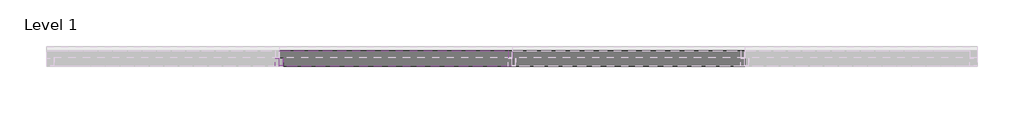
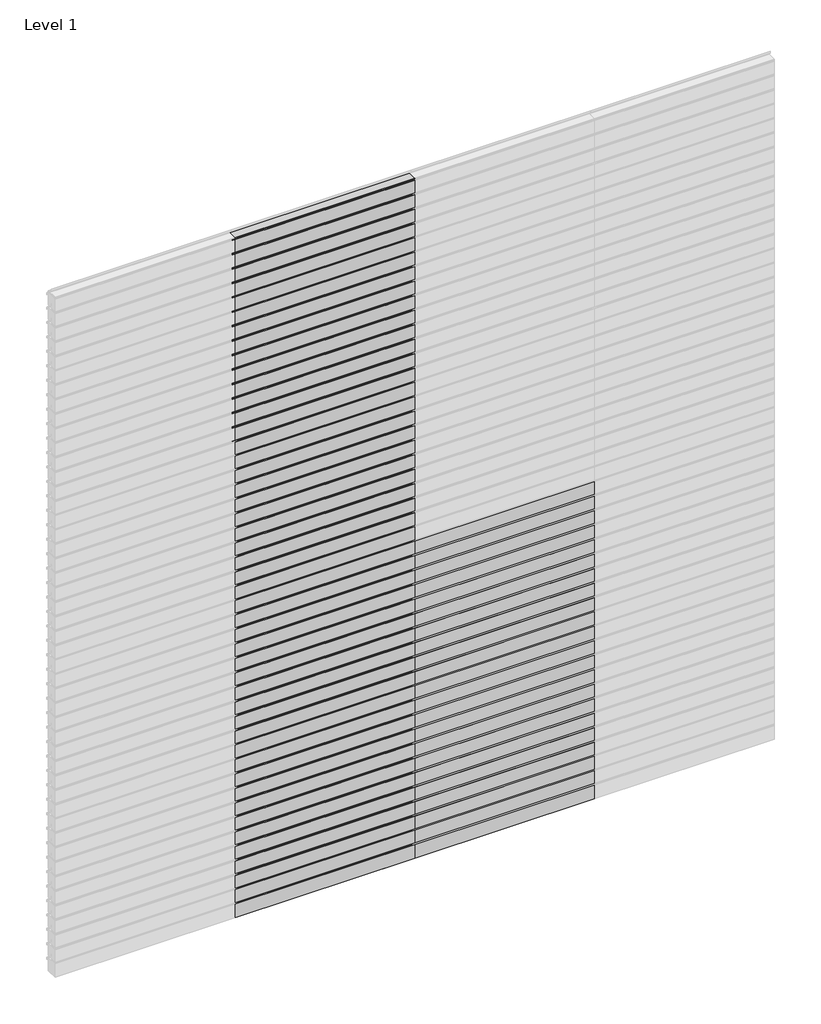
# One storey, part 3 of 6: 117 plates, 14 members.
"""IFC4 building model written with IfcOpenShell, lengths in millimetres."""

from ifc_helpers import new_model, si_unit, origin, place, context, project, spatial, transform, mapped, element, save
from components import rectangular_mullion_172e3795, empty_system_panel_empty_e0da4f88, empty_system_panel_empty_a47fb649, empty_system_panel_empty_1618a703, empty_system_panel_empty_03f415d5

model = new_model("IFC4")

# Units and contexts
model_context = context("Model", 3, world=origin())
ifc_project = project(units=[si_unit("LENGTHUNIT", "METRE", prefix="MILLI")], contexts=[model_context])

# Site, building, storey
site = spatial("IfcSite", under=ifc_project)
building = spatial("IfcBuilding", under=site)
storey = spatial("IfcBuildingStorey", under=building, Name="Level 1", Elevation=0.0)

# Members
placement = place(None, origin())
rectangular_mullion_shape = rectangular_mullion_172e3795(model_context)
element("IfcMember", 1, ObjectType="Rectangular Mullion : RSen_21_CWM_support profile 50x50_gen_duco projects", at=placement, inside=storey, context=model_context, shape_type="MappedRepresentation", body=[
    mapped(rectangular_mullion_shape, transform((1500.0, 3000.0, 4207.5), x_axis=(-1.0, 0.0, 0.0), y_axis=(0.0, 1.0, 0.0), z_axis=(0.0, 0.0, -1.0))),
])
element("IfcMember", 2, ObjectType="Rectangular Mullion : RSen_21_CWM_support profile 50x50_gen_duco projects", at=placement, inside=storey, context=model_context, shape_type="MappedRepresentation", body=[
    mapped(rectangular_mullion_shape, transform((1500.0, 3000.0, 4335.0), x_axis=(-1.0, 0.0, 0.0), y_axis=(0.0, 1.0, 0.0), z_axis=(0.0, 0.0, -1.0))),
])
element("IfcMember", 3, ObjectType="Rectangular Mullion : RSen_21_CWM_support profile 50x50_gen_duco projects", at=placement, inside=storey, context=model_context, shape_type="MappedRepresentation", body=[
    mapped(rectangular_mullion_shape, transform((1500.0, 3000.0, 4462.5), x_axis=(-1.0, 0.0, 0.0), y_axis=(0.0, 1.0, 0.0), z_axis=(0.0, 0.0, -1.0))),
])
element("IfcMember", 4, ObjectType="Rectangular Mullion : RSen_21_CWM_support profile 50x50_gen_duco projects", at=placement, inside=storey, context=model_context, shape_type="MappedRepresentation", body=[
    mapped(rectangular_mullion_shape, transform((1500.0, 3000.0, 4590.0), x_axis=(-1.0, 0.0, 0.0), y_axis=(0.0, 1.0, 0.0), z_axis=(0.0, 0.0, -1.0))),
])
element("IfcMember", 5, ObjectType="Rectangular Mullion : RSen_21_CWM_support profile 50x50_gen_duco projects", at=placement, inside=storey, context=model_context, shape_type="MappedRepresentation", body=[
    mapped(rectangular_mullion_shape, transform((1500.0, 3000.0, 4717.5), x_axis=(-1.0, 0.0, 0.0), y_axis=(0.0, 1.0, 0.0), z_axis=(0.0, 0.0, -1.0))),
])
element("IfcMember", 6, ObjectType="Rectangular Mullion : RSen_21_CWM_support profile 50x50_gen_duco projects", at=placement, inside=storey, context=model_context, shape_type="MappedRepresentation", body=[
    mapped(rectangular_mullion_shape, transform((1500.0, 3000.0, 4845.0), x_axis=(-1.0, 0.0, 0.0), y_axis=(0.0, 1.0, 0.0), z_axis=(0.0, 0.0, -1.0))),
])
element("IfcMember", 7, ObjectType="Rectangular Mullion : RSen_21_CWM_support profile 50x50_gen_duco projects", at=placement, inside=storey, context=model_context, shape_type="MappedRepresentation", body=[
    mapped(rectangular_mullion_shape, transform((1500.0, 3000.0, 4972.5), x_axis=(-1.0, 0.0, 0.0), y_axis=(0.0, 1.0, 0.0), z_axis=(0.0, 0.0, -1.0))),
])
element("IfcMember", 8, ObjectType="Rectangular Mullion : RSen_21_CWM_support profile 50x50_gen_duco projects", at=placement, inside=storey, context=model_context, shape_type="MappedRepresentation", body=[
    mapped(rectangular_mullion_shape, transform((1500.0, 3000.0, 5100.0), x_axis=(-1.0, 0.0, 0.0), y_axis=(0.0, 1.0, 0.0), z_axis=(0.0, 0.0, -1.0))),
])
element("IfcMember", 9, ObjectType="Rectangular Mullion : RSen_21_CWM_support profile 50x50_gen_duco projects", at=placement, inside=storey, context=model_context, shape_type="MappedRepresentation", body=[
    mapped(rectangular_mullion_shape, transform((1500.0, 3000.0, 5227.5), x_axis=(-1.0, 0.0, 0.0), y_axis=(0.0, 1.0, 0.0), z_axis=(0.0, 0.0, -1.0))),
])
element("IfcMember", 10, ObjectType="Rectangular Mullion : RSen_21_CWM_support profile 50x50_gen_duco projects", at=placement, inside=storey, context=model_context, shape_type="MappedRepresentation", body=[
    mapped(rectangular_mullion_shape, transform((1500.0, 3000.0, 5355.0), x_axis=(-1.0, 0.0, 0.0), y_axis=(0.0, 1.0, 0.0), z_axis=(0.0, 0.0, -1.0))),
])
element("IfcMember", 11, ObjectType="Rectangular Mullion : RSen_21_CWM_support profile 50x50_gen_duco projects", at=placement, inside=storey, context=model_context, shape_type="MappedRepresentation", body=[
    mapped(rectangular_mullion_shape, transform((1500.0, 3000.0, 5482.5), x_axis=(-1.0, 0.0, 0.0), y_axis=(0.0, 1.0, 0.0), z_axis=(0.0, 0.0, -1.0))),
])
element("IfcMember", 12, ObjectType="Rectangular Mullion : RSen_21_CWM_support profile 50x50_gen_duco projects", at=placement, inside=storey, context=model_context, shape_type="MappedRepresentation", body=[
    mapped(rectangular_mullion_shape, transform((1500.0, 3000.0, 5610.0), x_axis=(-1.0, 0.0, 0.0), y_axis=(0.0, 1.0, 0.0), z_axis=(0.0, 0.0, -1.0))),
])
element("IfcMember", 13, ObjectType="Rectangular Mullion : RSen_21_CWM_support profile 50x50_gen_duco projects", at=placement, inside=storey, context=model_context, shape_type="MappedRepresentation", body=[
    mapped(rectangular_mullion_shape, transform((1500.0, 3000.0, 5737.5), x_axis=(-1.0, 0.0, 0.0), y_axis=(0.0, 1.0, 0.0), z_axis=(0.0, 0.0, -1.0))),
])
element("IfcMember", 14, ObjectType="Rectangular Mullion : RSen_21_CWM_support profile 50x50_gen_duco projects", at=placement, inside=storey, context=model_context, shape_type="MappedRepresentation", body=[
    mapped(rectangular_mullion_shape, transform((1500.0, 3000.0, 5865.0), x_axis=(-1.0, 0.0, 0.0), y_axis=(0.0, 1.0, 0.0), z_axis=(0.0, 0.0, -1.0))),
])

# Plates
empty_system_panel_empty_shape = empty_system_panel_empty_e0da4f88(model_context)
element("IfcPlate", 15, ObjectType="Empty System Panel : Empty", at=placement, inside=storey, context=model_context, shape_type="MappedRepresentation", body=[
    mapped(empty_system_panel_empty_shape, transform((3750.0, 3000.0, 0.0), x_axis=(-1.0, 0.0, 0.0), y_axis=(0.0, -1.0, 0.0), z_axis=(0.0, 0.0, 1.0))),
])
element("IfcPlate", 16, ObjectType="Empty System Panel : Empty", at=placement, inside=storey, context=model_context, shape_type="MappedRepresentation", body=[
    mapped(empty_system_panel_empty_shape, transform((2250.0, 3000.0, 0.0), x_axis=(-1.0, 0.0, 0.0), y_axis=(0.0, -1.0, 0.0), z_axis=(0.0, 0.0, 1.0))),
])
empty_system_panel_empty_2_shape = empty_system_panel_empty_a47fb649(model_context)
element("IfcPlate", 17, ObjectType="Empty System Panel : Empty", at=placement, inside=storey, context=model_context, shape_type="MappedRepresentation", body=[
    mapped(empty_system_panel_empty_2_shape, transform((3750.0, 3000.0, 135.9852814), x_axis=(-1.0, 0.0, 0.0), y_axis=(0.0, -1.0, 0.0), z_axis=(0.0, 0.0, 1.0))),
])
element("IfcPlate", 18, ObjectType="Empty System Panel : Empty", at=placement, inside=storey, context=model_context, shape_type="MappedRepresentation", body=[
    mapped(empty_system_panel_empty_2_shape, transform((2250.0, 3000.0, 135.9852814), x_axis=(-1.0, 0.0, 0.0), y_axis=(0.0, -1.0, 0.0), z_axis=(0.0, 0.0, 1.0))),
])
element("IfcPlate", 19, ObjectType="Empty System Panel : Empty", at=placement, inside=storey, context=model_context, shape_type="MappedRepresentation", body=[
    mapped(empty_system_panel_empty_2_shape, transform((3750.0, 3000.0, 263.4852814), x_axis=(-1.0, 0.0, 0.0), y_axis=(0.0, -1.0, 0.0), z_axis=(0.0, 0.0, 1.0))),
])
element("IfcPlate", 20, ObjectType="Empty System Panel : Empty", at=placement, inside=storey, context=model_context, shape_type="MappedRepresentation", body=[
    mapped(empty_system_panel_empty_2_shape, transform((2250.0, 3000.0, 263.4852814), x_axis=(-1.0, 0.0, 0.0), y_axis=(0.0, -1.0, 0.0), z_axis=(0.0, 0.0, 1.0))),
])
element("IfcPlate", 21, ObjectType="Empty System Panel : Empty", at=placement, inside=storey, context=model_context, shape_type="MappedRepresentation", body=[
    mapped(empty_system_panel_empty_2_shape, transform((3750.0, 3000.0, 390.9852814), x_axis=(-1.0, 0.0, 0.0), y_axis=(0.0, -1.0, 0.0), z_axis=(0.0, 0.0, 1.0))),
])
element("IfcPlate", 22, ObjectType="Empty System Panel : Empty", at=placement, inside=storey, context=model_context, shape_type="MappedRepresentation", body=[
    mapped(empty_system_panel_empty_2_shape, transform((2250.0, 3000.0, 390.9852814), x_axis=(-1.0, 0.0, 0.0), y_axis=(0.0, -1.0, 0.0), z_axis=(0.0, 0.0, 1.0))),
])
element("IfcPlate", 23, ObjectType="Empty System Panel : Empty", at=placement, inside=storey, context=model_context, shape_type="MappedRepresentation", body=[
    mapped(empty_system_panel_empty_2_shape, transform((3750.0, 3000.0, 518.4852814), x_axis=(-1.0, 0.0, 0.0), y_axis=(0.0, -1.0, 0.0), z_axis=(0.0, 0.0, 1.0))),
])
element("IfcPlate", 24, ObjectType="Empty System Panel : Empty", at=placement, inside=storey, context=model_context, shape_type="MappedRepresentation", body=[
    mapped(empty_system_panel_empty_2_shape, transform((2250.0, 3000.0, 518.4852814), x_axis=(-1.0, 0.0, 0.0), y_axis=(0.0, -1.0, 0.0), z_axis=(0.0, 0.0, 1.0))),
])
element("IfcPlate", 25, ObjectType="Empty System Panel : Empty", at=placement, inside=storey, context=model_context, shape_type="MappedRepresentation", body=[
    mapped(empty_system_panel_empty_2_shape, transform((3750.0, 3000.0, 645.9852814), x_axis=(-1.0, 0.0, 0.0), y_axis=(0.0, -1.0, 0.0), z_axis=(0.0, 0.0, 1.0))),
])
element("IfcPlate", 26, ObjectType="Empty System Panel : Empty", at=placement, inside=storey, context=model_context, shape_type="MappedRepresentation", body=[
    mapped(empty_system_panel_empty_2_shape, transform((2250.0, 3000.0, 645.9852814), x_axis=(-1.0, 0.0, 0.0), y_axis=(0.0, -1.0, 0.0), z_axis=(0.0, 0.0, 1.0))),
])
element("IfcPlate", 27, ObjectType="Empty System Panel : Empty", at=placement, inside=storey, context=model_context, shape_type="MappedRepresentation", body=[
    mapped(empty_system_panel_empty_2_shape, transform((3750.0, 3000.0, 773.4852814), x_axis=(-1.0, 0.0, 0.0), y_axis=(0.0, -1.0, 0.0), z_axis=(0.0, 0.0, 1.0))),
])
element("IfcPlate", 28, ObjectType="Empty System Panel : Empty", at=placement, inside=storey, context=model_context, shape_type="MappedRepresentation", body=[
    mapped(empty_system_panel_empty_2_shape, transform((2250.0, 3000.0, 773.4852814), x_axis=(-1.0, 0.0, 0.0), y_axis=(0.0, -1.0, 0.0), z_axis=(0.0, 0.0, 1.0))),
])
element("IfcPlate", 29, ObjectType="Empty System Panel : Empty", at=placement, inside=storey, context=model_context, shape_type="MappedRepresentation", body=[
    mapped(empty_system_panel_empty_2_shape, transform((3750.0, 3000.0, 900.9852814), x_axis=(-1.0, 0.0, 0.0), y_axis=(0.0, -1.0, 0.0), z_axis=(0.0, 0.0, 1.0))),
])
element("IfcPlate", 30, ObjectType="Empty System Panel : Empty", at=placement, inside=storey, context=model_context, shape_type="MappedRepresentation", body=[
    mapped(empty_system_panel_empty_2_shape, transform((2250.0, 3000.0, 900.9852814), x_axis=(-1.0, 0.0, 0.0), y_axis=(0.0, -1.0, 0.0), z_axis=(0.0, 0.0, 1.0))),
])
element("IfcPlate", 31, ObjectType="Empty System Panel : Empty", at=placement, inside=storey, context=model_context, shape_type="MappedRepresentation", body=[
    mapped(empty_system_panel_empty_2_shape, transform((3750.0, 3000.0, 1028.4852814), x_axis=(-1.0, 0.0, 0.0), y_axis=(0.0, -1.0, 0.0), z_axis=(0.0, 0.0, 1.0))),
])
element("IfcPlate", 32, ObjectType="Empty System Panel : Empty", at=placement, inside=storey, context=model_context, shape_type="MappedRepresentation", body=[
    mapped(empty_system_panel_empty_2_shape, transform((2250.0, 3000.0, 1028.4852814), x_axis=(-1.0, 0.0, 0.0), y_axis=(0.0, -1.0, 0.0), z_axis=(0.0, 0.0, 1.0))),
])
element("IfcPlate", 33, ObjectType="Empty System Panel : Empty", at=placement, inside=storey, context=model_context, shape_type="MappedRepresentation", body=[
    mapped(empty_system_panel_empty_2_shape, transform((3750.0, 3000.0, 1155.9852814), x_axis=(-1.0, 0.0, 0.0), y_axis=(0.0, -1.0, 0.0), z_axis=(0.0, 0.0, 1.0))),
])
element("IfcPlate", 34, ObjectType="Empty System Panel : Empty", at=placement, inside=storey, context=model_context, shape_type="MappedRepresentation", body=[
    mapped(empty_system_panel_empty_2_shape, transform((2250.0, 3000.0, 1155.9852814), x_axis=(-1.0, 0.0, 0.0), y_axis=(0.0, -1.0, 0.0), z_axis=(0.0, 0.0, 1.0))),
])
element("IfcPlate", 35, ObjectType="Empty System Panel : Empty", at=placement, inside=storey, context=model_context, shape_type="MappedRepresentation", body=[
    mapped(empty_system_panel_empty_2_shape, transform((3750.0, 3000.0, 1283.4852814), x_axis=(-1.0, 0.0, 0.0), y_axis=(0.0, -1.0, 0.0), z_axis=(0.0, 0.0, 1.0))),
])
element("IfcPlate", 36, ObjectType="Empty System Panel : Empty", at=placement, inside=storey, context=model_context, shape_type="MappedRepresentation", body=[
    mapped(empty_system_panel_empty_2_shape, transform((2250.0, 3000.0, 1283.4852814), x_axis=(-1.0, 0.0, 0.0), y_axis=(0.0, -1.0, 0.0), z_axis=(0.0, 0.0, 1.0))),
])
element("IfcPlate", 37, ObjectType="Empty System Panel : Empty", at=placement, inside=storey, context=model_context, shape_type="MappedRepresentation", body=[
    mapped(empty_system_panel_empty_2_shape, transform((3750.0, 3000.0, 1410.9852814), x_axis=(-1.0, 0.0, 0.0), y_axis=(0.0, -1.0, 0.0), z_axis=(0.0, 0.0, 1.0))),
])
element("IfcPlate", 38, ObjectType="Empty System Panel : Empty", at=placement, inside=storey, context=model_context, shape_type="MappedRepresentation", body=[
    mapped(empty_system_panel_empty_2_shape, transform((2250.0, 3000.0, 1410.9852814), x_axis=(-1.0, 0.0, 0.0), y_axis=(0.0, -1.0, 0.0), z_axis=(0.0, 0.0, 1.0))),
])
element("IfcPlate", 39, ObjectType="Empty System Panel : Empty", at=placement, inside=storey, context=model_context, shape_type="MappedRepresentation", body=[
    mapped(empty_system_panel_empty_2_shape, transform((3750.0, 3000.0, 1538.4852814), x_axis=(-1.0, 0.0, 0.0), y_axis=(0.0, -1.0, 0.0), z_axis=(0.0, 0.0, 1.0))),
])
element("IfcPlate", 40, ObjectType="Empty System Panel : Empty", at=placement, inside=storey, context=model_context, shape_type="MappedRepresentation", body=[
    mapped(empty_system_panel_empty_2_shape, transform((2250.0, 3000.0, 1538.4852814), x_axis=(-1.0, 0.0, 0.0), y_axis=(0.0, -1.0, 0.0), z_axis=(0.0, 0.0, 1.0))),
])
element("IfcPlate", 41, ObjectType="Empty System Panel : Empty", at=placement, inside=storey, context=model_context, shape_type="MappedRepresentation", body=[
    mapped(empty_system_panel_empty_2_shape, transform((3750.0, 3000.0, 1665.9852814), x_axis=(-1.0, 0.0, 0.0), y_axis=(0.0, -1.0, 0.0), z_axis=(0.0, 0.0, 1.0))),
])
element("IfcPlate", 42, ObjectType="Empty System Panel : Empty", at=placement, inside=storey, context=model_context, shape_type="MappedRepresentation", body=[
    mapped(empty_system_panel_empty_2_shape, transform((2250.0, 3000.0, 1665.9852814), x_axis=(-1.0, 0.0, 0.0), y_axis=(0.0, -1.0, 0.0), z_axis=(0.0, 0.0, 1.0))),
])
element("IfcPlate", 43, ObjectType="Empty System Panel : Empty", at=placement, inside=storey, context=model_context, shape_type="MappedRepresentation", body=[
    mapped(empty_system_panel_empty_2_shape, transform((3750.0, 3000.0, 1793.4852814), x_axis=(-1.0, 0.0, 0.0), y_axis=(0.0, -1.0, 0.0), z_axis=(0.0, 0.0, 1.0))),
])
element("IfcPlate", 44, ObjectType="Empty System Panel : Empty", at=placement, inside=storey, context=model_context, shape_type="MappedRepresentation", body=[
    mapped(empty_system_panel_empty_2_shape, transform((2250.0, 3000.0, 1793.4852814), x_axis=(-1.0, 0.0, 0.0), y_axis=(0.0, -1.0, 0.0), z_axis=(0.0, 0.0, 1.0))),
])
element("IfcPlate", 45, ObjectType="Empty System Panel : Empty", at=placement, inside=storey, context=model_context, shape_type="MappedRepresentation", body=[
    mapped(empty_system_panel_empty_2_shape, transform((3750.0, 3000.0, 1920.9852814), x_axis=(-1.0, 0.0, 0.0), y_axis=(0.0, -1.0, 0.0), z_axis=(0.0, 0.0, 1.0))),
])
element("IfcPlate", 46, ObjectType="Empty System Panel : Empty", at=placement, inside=storey, context=model_context, shape_type="MappedRepresentation", body=[
    mapped(empty_system_panel_empty_2_shape, transform((2250.0, 3000.0, 1920.9852814), x_axis=(-1.0, 0.0, 0.0), y_axis=(0.0, -1.0, 0.0), z_axis=(0.0, 0.0, 1.0))),
])
element("IfcPlate", 47, ObjectType="Empty System Panel : Empty", at=placement, inside=storey, context=model_context, shape_type="MappedRepresentation", body=[
    mapped(empty_system_panel_empty_2_shape, transform((3750.0, 3000.0, 2048.4852814), x_axis=(-1.0, 0.0, 0.0), y_axis=(0.0, -1.0, 0.0), z_axis=(0.0, 0.0, 1.0))),
])
element("IfcPlate", 48, ObjectType="Empty System Panel : Empty", at=placement, inside=storey, context=model_context, shape_type="MappedRepresentation", body=[
    mapped(empty_system_panel_empty_2_shape, transform((2250.0, 3000.0, 2048.4852814), x_axis=(-1.0, 0.0, 0.0), y_axis=(0.0, -1.0, 0.0), z_axis=(0.0, 0.0, 1.0))),
])
element("IfcPlate", 49, ObjectType="Empty System Panel : Empty", at=placement, inside=storey, context=model_context, shape_type="MappedRepresentation", body=[
    mapped(empty_system_panel_empty_2_shape, transform((3750.0, 3000.0, 2175.9852814), x_axis=(-1.0, 0.0, 0.0), y_axis=(0.0, -1.0, 0.0), z_axis=(0.0, 0.0, 1.0))),
])
element("IfcPlate", 50, ObjectType="Empty System Panel : Empty", at=placement, inside=storey, context=model_context, shape_type="MappedRepresentation", body=[
    mapped(empty_system_panel_empty_2_shape, transform((2250.0, 3000.0, 2175.9852814), x_axis=(-1.0, 0.0, 0.0), y_axis=(0.0, -1.0, 0.0), z_axis=(0.0, 0.0, 1.0))),
])
element("IfcPlate", 51, ObjectType="Empty System Panel : Empty", at=placement, inside=storey, context=model_context, shape_type="MappedRepresentation", body=[
    mapped(empty_system_panel_empty_2_shape, transform((3750.0, 3000.0, 2303.4852814), x_axis=(-1.0, 0.0, 0.0), y_axis=(0.0, -1.0, 0.0), z_axis=(0.0, 0.0, 1.0))),
])
element("IfcPlate", 52, ObjectType="Empty System Panel : Empty", at=placement, inside=storey, context=model_context, shape_type="MappedRepresentation", body=[
    mapped(empty_system_panel_empty_2_shape, transform((2250.0, 3000.0, 2303.4852814), x_axis=(-1.0, 0.0, 0.0), y_axis=(0.0, -1.0, 0.0), z_axis=(0.0, 0.0, 1.0))),
])
element("IfcPlate", 53, ObjectType="Empty System Panel : Empty", at=placement, inside=storey, context=model_context, shape_type="MappedRepresentation", body=[
    mapped(empty_system_panel_empty_2_shape, transform((3750.0, 3000.0, 2430.9852814), x_axis=(-1.0, 0.0, 0.0), y_axis=(0.0, -1.0, 0.0), z_axis=(0.0, 0.0, 1.0))),
])
element("IfcPlate", 54, ObjectType="Empty System Panel : Empty", at=placement, inside=storey, context=model_context, shape_type="MappedRepresentation", body=[
    mapped(empty_system_panel_empty_2_shape, transform((2250.0, 3000.0, 2430.9852814), x_axis=(-1.0, 0.0, 0.0), y_axis=(0.0, -1.0, 0.0), z_axis=(0.0, 0.0, 1.0))),
])
element("IfcPlate", 55, ObjectType="Empty System Panel : Empty", at=placement, inside=storey, context=model_context, shape_type="MappedRepresentation", body=[
    mapped(empty_system_panel_empty_2_shape, transform((3750.0, 3000.0, 2558.4852814), x_axis=(-1.0, 0.0, 0.0), y_axis=(0.0, -1.0, 0.0), z_axis=(0.0, 0.0, 1.0))),
])
element("IfcPlate", 56, ObjectType="Empty System Panel : Empty", at=placement, inside=storey, context=model_context, shape_type="MappedRepresentation", body=[
    mapped(empty_system_panel_empty_2_shape, transform((2250.0, 3000.0, 2558.4852814), x_axis=(-1.0, 0.0, 0.0), y_axis=(0.0, -1.0, 0.0), z_axis=(0.0, 0.0, 1.0))),
])
element("IfcPlate", 57, ObjectType="Empty System Panel : Empty", at=placement, inside=storey, context=model_context, shape_type="MappedRepresentation", body=[
    mapped(empty_system_panel_empty_2_shape, transform((3750.0, 3000.0, 2685.9852814), x_axis=(-1.0, 0.0, 0.0), y_axis=(0.0, -1.0, 0.0), z_axis=(0.0, 0.0, 1.0))),
])
element("IfcPlate", 58, ObjectType="Empty System Panel : Empty", at=placement, inside=storey, context=model_context, shape_type="MappedRepresentation", body=[
    mapped(empty_system_panel_empty_2_shape, transform((2250.0, 3000.0, 2685.9852814), x_axis=(-1.0, 0.0, 0.0), y_axis=(0.0, -1.0, 0.0), z_axis=(0.0, 0.0, 1.0))),
])
element("IfcPlate", 59, ObjectType="Empty System Panel : Empty", at=placement, inside=storey, context=model_context, shape_type="MappedRepresentation", body=[
    mapped(empty_system_panel_empty_2_shape, transform((2250.0, 3000.0, 2813.4852814), x_axis=(-1.0, 0.0, 0.0), y_axis=(0.0, -1.0, 0.0), z_axis=(0.0, 0.0, 1.0))),
])
element("IfcPlate", 60, ObjectType="Empty System Panel : Empty", at=placement, inside=storey, context=model_context, shape_type="MappedRepresentation", body=[
    mapped(empty_system_panel_empty_2_shape, transform((2250.0, 3000.0, 2940.9852814), x_axis=(-1.0, 0.0, 0.0), y_axis=(0.0, -1.0, 0.0), z_axis=(0.0, 0.0, 1.0))),
])
element("IfcPlate", 61, ObjectType="Empty System Panel : Empty", at=placement, inside=storey, context=model_context, shape_type="MappedRepresentation", body=[
    mapped(empty_system_panel_empty_2_shape, transform((2250.0, 3000.0, 3068.4852814), x_axis=(-1.0, 0.0, 0.0), y_axis=(0.0, -1.0, 0.0), z_axis=(0.0, 0.0, 1.0))),
])
element("IfcPlate", 62, ObjectType="Empty System Panel : Empty", at=placement, inside=storey, context=model_context, shape_type="MappedRepresentation", body=[
    mapped(empty_system_panel_empty_2_shape, transform((2250.0, 3000.0, 3195.9852814), x_axis=(-1.0, 0.0, 0.0), y_axis=(0.0, -1.0, 0.0), z_axis=(0.0, 0.0, 1.0))),
])
element("IfcPlate", 63, ObjectType="Empty System Panel : Empty", at=placement, inside=storey, context=model_context, shape_type="MappedRepresentation", body=[
    mapped(empty_system_panel_empty_2_shape, transform((2250.0, 3000.0, 3323.4852814), x_axis=(-1.0, 0.0, 0.0), y_axis=(0.0, -1.0, 0.0), z_axis=(0.0, 0.0, 1.0))),
])
element("IfcPlate", 64, ObjectType="Empty System Panel : Empty", at=placement, inside=storey, context=model_context, shape_type="MappedRepresentation", body=[
    mapped(empty_system_panel_empty_2_shape, transform((2250.0, 3000.0, 3450.9852814), x_axis=(-1.0, 0.0, 0.0), y_axis=(0.0, -1.0, 0.0), z_axis=(0.0, 0.0, 1.0))),
])
element("IfcPlate", 65, ObjectType="Empty System Panel : Empty", at=placement, inside=storey, context=model_context, shape_type="MappedRepresentation", body=[
    mapped(empty_system_panel_empty_2_shape, transform((2250.0, 3000.0, 3578.4852814), x_axis=(-1.0, 0.0, 0.0), y_axis=(0.0, -1.0, 0.0), z_axis=(0.0, 0.0, 1.0))),
])
element("IfcPlate", 66, ObjectType="Empty System Panel : Empty", at=placement, inside=storey, context=model_context, shape_type="MappedRepresentation", body=[
    mapped(empty_system_panel_empty_2_shape, transform((2250.0, 3000.0, 3705.9852814), x_axis=(-1.0, 0.0, 0.0), y_axis=(0.0, -1.0, 0.0), z_axis=(0.0, 0.0, 1.0))),
])
element("IfcPlate", 67, ObjectType="Empty System Panel : Empty", at=placement, inside=storey, context=model_context, shape_type="MappedRepresentation", body=[
    mapped(empty_system_panel_empty_2_shape, transform((2250.0, 3000.0, 3833.4852814), x_axis=(-1.0, 0.0, 0.0), y_axis=(0.0, -1.0, 0.0), z_axis=(0.0, 0.0, 1.0))),
])
element("IfcPlate", 68, ObjectType="Empty System Panel : Empty", at=placement, inside=storey, context=model_context, shape_type="MappedRepresentation", body=[
    mapped(empty_system_panel_empty_2_shape, transform((2250.0, 3000.0, 3960.9852814), x_axis=(-1.0, 0.0, 0.0), y_axis=(0.0, -1.0, 0.0), z_axis=(0.0, 0.0, 1.0))),
])
element("IfcPlate", 69, ObjectType="Empty System Panel : Empty", at=placement, inside=storey, context=model_context, shape_type="MappedRepresentation", body=[
    mapped(empty_system_panel_empty_2_shape, transform((2250.0, 3000.0, 4088.4852814), x_axis=(-1.0, 0.0, 0.0), y_axis=(0.0, -1.0, 0.0), z_axis=(0.0, 0.0, 1.0))),
])
element("IfcPlate", 70, ObjectType="Empty System Panel : Empty", at=placement, inside=storey, context=model_context, shape_type="MappedRepresentation", body=[
    mapped(empty_system_panel_empty_2_shape, transform((2250.0, 3000.0, 4215.9852814), x_axis=(-1.0, 0.0, 0.0), y_axis=(0.0, -1.0, 0.0), z_axis=(0.0, 0.0, 1.0))),
])
element("IfcPlate", 71, ObjectType="Empty System Panel : Empty", at=placement, inside=storey, context=model_context, shape_type="MappedRepresentation", body=[
    mapped(empty_system_panel_empty_2_shape, transform((2250.0, 3000.0, 4343.4852814), x_axis=(-1.0, 0.0, 0.0), y_axis=(0.0, -1.0, 0.0), z_axis=(0.0, 0.0, 1.0))),
])
element("IfcPlate", 72, ObjectType="Empty System Panel : Empty", at=placement, inside=storey, context=model_context, shape_type="MappedRepresentation", body=[
    mapped(empty_system_panel_empty_2_shape, transform((2250.0, 3000.0, 4470.9852814), x_axis=(-1.0, 0.0, 0.0), y_axis=(0.0, -1.0, 0.0), z_axis=(0.0, 0.0, 1.0))),
])
element("IfcPlate", 73, ObjectType="Empty System Panel : Empty", at=placement, inside=storey, context=model_context, shape_type="MappedRepresentation", body=[
    mapped(empty_system_panel_empty_2_shape, transform((2250.0, 3000.0, 4598.4852814), x_axis=(-1.0, 0.0, 0.0), y_axis=(0.0, -1.0, 0.0), z_axis=(0.0, 0.0, 1.0))),
])
element("IfcPlate", 74, ObjectType="Empty System Panel : Empty", at=placement, inside=storey, context=model_context, shape_type="MappedRepresentation", body=[
    mapped(empty_system_panel_empty_2_shape, transform((2250.0, 3000.0, 4725.9852814), x_axis=(-1.0, 0.0, 0.0), y_axis=(0.0, -1.0, 0.0), z_axis=(0.0, 0.0, 1.0))),
])
element("IfcPlate", 75, ObjectType="Empty System Panel : Empty", at=placement, inside=storey, context=model_context, shape_type="MappedRepresentation", body=[
    mapped(empty_system_panel_empty_2_shape, transform((2250.0, 3000.0, 4853.4852814), x_axis=(-1.0, 0.0, 0.0), y_axis=(0.0, -1.0, 0.0), z_axis=(0.0, 0.0, 1.0))),
])
element("IfcPlate", 76, ObjectType="Empty System Panel : Empty", at=placement, inside=storey, context=model_context, shape_type="MappedRepresentation", body=[
    mapped(empty_system_panel_empty_2_shape, transform((2250.0, 3000.0, 4980.9852814), x_axis=(-1.0, 0.0, 0.0), y_axis=(0.0, -1.0, 0.0), z_axis=(0.0, 0.0, 1.0))),
])
element("IfcPlate", 77, ObjectType="Empty System Panel : Empty", at=placement, inside=storey, context=model_context, shape_type="MappedRepresentation", body=[
    mapped(empty_system_panel_empty_2_shape, transform((2250.0, 3000.0, 5108.4852814), x_axis=(-1.0, 0.0, 0.0), y_axis=(0.0, -1.0, 0.0), z_axis=(0.0, 0.0, 1.0))),
])
element("IfcPlate", 78, ObjectType="Empty System Panel : Empty", at=placement, inside=storey, context=model_context, shape_type="MappedRepresentation", body=[
    mapped(empty_system_panel_empty_2_shape, transform((2250.0, 3000.0, 5235.9852814), x_axis=(-1.0, 0.0, 0.0), y_axis=(0.0, -1.0, 0.0), z_axis=(0.0, 0.0, 1.0))),
])
element("IfcPlate", 79, ObjectType="Empty System Panel : Empty", at=placement, inside=storey, context=model_context, shape_type="MappedRepresentation", body=[
    mapped(empty_system_panel_empty_2_shape, transform((2250.0, 3000.0, 5363.4852814), x_axis=(-1.0, 0.0, 0.0), y_axis=(0.0, -1.0, 0.0), z_axis=(0.0, 0.0, 1.0))),
])
element("IfcPlate", 80, ObjectType="Empty System Panel : Empty", at=placement, inside=storey, context=model_context, shape_type="MappedRepresentation", body=[
    mapped(empty_system_panel_empty_2_shape, transform((2250.0, 3000.0, 5490.9852814), x_axis=(-1.0, 0.0, 0.0), y_axis=(0.0, -1.0, 0.0), z_axis=(0.0, 0.0, 1.0))),
])
element("IfcPlate", 81, ObjectType="Empty System Panel : Empty", at=placement, inside=storey, context=model_context, shape_type="MappedRepresentation", body=[
    mapped(empty_system_panel_empty_2_shape, transform((2250.0, 3000.0, 5618.4852814), x_axis=(-1.0, 0.0, 0.0), y_axis=(0.0, -1.0, 0.0), z_axis=(0.0, 0.0, 1.0))),
])
element("IfcPlate", 82, ObjectType="Empty System Panel : Empty", at=placement, inside=storey, context=model_context, shape_type="MappedRepresentation", body=[
    mapped(empty_system_panel_empty_2_shape, transform((2250.0, 3000.0, 5745.9852814), x_axis=(-1.0, 0.0, 0.0), y_axis=(0.0, -1.0, 0.0), z_axis=(0.0, 0.0, 1.0))),
])
element("IfcPlate", 83, ObjectType="Empty System Panel : Empty", at=placement, inside=storey, context=model_context, shape_type="MappedRepresentation", body=[
    mapped(empty_system_panel_empty_2_shape, transform((2250.0, 3000.0, 5873.4852814), x_axis=(-1.0, 0.0, 0.0), y_axis=(0.0, -1.0, 0.0), z_axis=(0.0, 0.0, 1.0))),
])
empty_system_panel_empty_3_shape = empty_system_panel_empty_1618a703(model_context)
element("IfcPlate", 84, ObjectType="Empty System Panel : Empty", at=placement, inside=storey, context=model_context, shape_type="MappedRepresentation", body=[
    mapped(empty_system_panel_empty_3_shape, transform((2250.0, 3000.0, 0.0), x_axis=(-1.0, 0.0, 0.0), y_axis=(0.0, -1.0, 0.0), z_axis=(0.0, 0.0, 1.0))),
])
element("IfcPlate", 85, ObjectType="Empty System Panel : Empty", at=placement, inside=storey, context=model_context, shape_type="MappedRepresentation", body=[
    mapped(empty_system_panel_empty_3_shape, transform((2250.0, 3000.0, 127.5), x_axis=(-1.0, 0.0, 0.0), y_axis=(0.0, -1.0, 0.0), z_axis=(0.0, 0.0, 1.0))),
])
element("IfcPlate", 86, ObjectType="Empty System Panel : Empty", at=placement, inside=storey, context=model_context, shape_type="MappedRepresentation", body=[
    mapped(empty_system_panel_empty_3_shape, transform((2250.0, 3000.0, 255.0), x_axis=(-1.0, 0.0, 0.0), y_axis=(0.0, -1.0, 0.0), z_axis=(0.0, 0.0, 1.0))),
])
element("IfcPlate", 87, ObjectType="Empty System Panel : Empty", at=placement, inside=storey, context=model_context, shape_type="MappedRepresentation", body=[
    mapped(empty_system_panel_empty_3_shape, transform((2250.0, 3000.0, 382.5), x_axis=(-1.0, 0.0, 0.0), y_axis=(0.0, -1.0, 0.0), z_axis=(0.0, 0.0, 1.0))),
])
element("IfcPlate", 88, ObjectType="Empty System Panel : Empty", at=placement, inside=storey, context=model_context, shape_type="MappedRepresentation", body=[
    mapped(empty_system_panel_empty_3_shape, transform((2250.0, 3000.0, 510.0), x_axis=(-1.0, 0.0, 0.0), y_axis=(0.0, -1.0, 0.0), z_axis=(0.0, 0.0, 1.0))),
])
element("IfcPlate", 89, ObjectType="Empty System Panel : Empty", at=placement, inside=storey, context=model_context, shape_type="MappedRepresentation", body=[
    mapped(empty_system_panel_empty_3_shape, transform((2250.0, 3000.0, 637.5), x_axis=(-1.0, 0.0, 0.0), y_axis=(0.0, -1.0, 0.0), z_axis=(0.0, 0.0, 1.0))),
])
element("IfcPlate", 90, ObjectType="Empty System Panel : Empty", at=placement, inside=storey, context=model_context, shape_type="MappedRepresentation", body=[
    mapped(empty_system_panel_empty_3_shape, transform((2250.0, 3000.0, 765.0), x_axis=(-1.0, 0.0, 0.0), y_axis=(0.0, -1.0, 0.0), z_axis=(0.0, 0.0, 1.0))),
])
element("IfcPlate", 91, ObjectType="Empty System Panel : Empty", at=placement, inside=storey, context=model_context, shape_type="MappedRepresentation", body=[
    mapped(empty_system_panel_empty_3_shape, transform((2250.0, 3000.0, 892.5), x_axis=(-1.0, 0.0, 0.0), y_axis=(0.0, -1.0, 0.0), z_axis=(0.0, 0.0, 1.0))),
])
element("IfcPlate", 92, ObjectType="Empty System Panel : Empty", at=placement, inside=storey, context=model_context, shape_type="MappedRepresentation", body=[
    mapped(empty_system_panel_empty_3_shape, transform((2250.0, 3000.0, 1020.0), x_axis=(-1.0, 0.0, 0.0), y_axis=(0.0, -1.0, 0.0), z_axis=(0.0, 0.0, 1.0))),
])
element("IfcPlate", 93, ObjectType="Empty System Panel : Empty", at=placement, inside=storey, context=model_context, shape_type="MappedRepresentation", body=[
    mapped(empty_system_panel_empty_3_shape, transform((2250.0, 3000.0, 1147.5), x_axis=(-1.0, 0.0, 0.0), y_axis=(0.0, -1.0, 0.0), z_axis=(0.0, 0.0, 1.0))),
])
element("IfcPlate", 94, ObjectType="Empty System Panel : Empty", at=placement, inside=storey, context=model_context, shape_type="MappedRepresentation", body=[
    mapped(empty_system_panel_empty_3_shape, transform((2250.0, 3000.0, 1275.0), x_axis=(-1.0, 0.0, 0.0), y_axis=(0.0, -1.0, 0.0), z_axis=(0.0, 0.0, 1.0))),
])
element("IfcPlate", 95, ObjectType="Empty System Panel : Empty", at=placement, inside=storey, context=model_context, shape_type="MappedRepresentation", body=[
    mapped(empty_system_panel_empty_3_shape, transform((2250.0, 3000.0, 1402.5), x_axis=(-1.0, 0.0, 0.0), y_axis=(0.0, -1.0, 0.0), z_axis=(0.0, 0.0, 1.0))),
])
element("IfcPlate", 96, ObjectType="Empty System Panel : Empty", at=placement, inside=storey, context=model_context, shape_type="MappedRepresentation", body=[
    mapped(empty_system_panel_empty_3_shape, transform((2250.0, 3000.0, 1530.0), x_axis=(-1.0, 0.0, 0.0), y_axis=(0.0, -1.0, 0.0), z_axis=(0.0, 0.0, 1.0))),
])
element("IfcPlate", 97, ObjectType="Empty System Panel : Empty", at=placement, inside=storey, context=model_context, shape_type="MappedRepresentation", body=[
    mapped(empty_system_panel_empty_3_shape, transform((2250.0, 3000.0, 1657.5), x_axis=(-1.0, 0.0, 0.0), y_axis=(0.0, -1.0, 0.0), z_axis=(0.0, 0.0, 1.0))),
])
element("IfcPlate", 98, ObjectType="Empty System Panel : Empty", at=placement, inside=storey, context=model_context, shape_type="MappedRepresentation", body=[
    mapped(empty_system_panel_empty_3_shape, transform((2250.0, 3000.0, 1785.0), x_axis=(-1.0, 0.0, 0.0), y_axis=(0.0, -1.0, 0.0), z_axis=(0.0, 0.0, 1.0))),
])
element("IfcPlate", 99, ObjectType="Empty System Panel : Empty", at=placement, inside=storey, context=model_context, shape_type="MappedRepresentation", body=[
    mapped(empty_system_panel_empty_3_shape, transform((2250.0, 3000.0, 1912.5), x_axis=(-1.0, 0.0, 0.0), y_axis=(0.0, -1.0, 0.0), z_axis=(0.0, 0.0, 1.0))),
])
element("IfcPlate", 100, ObjectType="Empty System Panel : Empty", at=placement, inside=storey, context=model_context, shape_type="MappedRepresentation", body=[
    mapped(empty_system_panel_empty_3_shape, transform((2250.0, 3000.0, 2040.0), x_axis=(-1.0, 0.0, 0.0), y_axis=(0.0, -1.0, 0.0), z_axis=(0.0, 0.0, 1.0))),
])
element("IfcPlate", 101, ObjectType="Empty System Panel : Empty", at=placement, inside=storey, context=model_context, shape_type="MappedRepresentation", body=[
    mapped(empty_system_panel_empty_3_shape, transform((2250.0, 3000.0, 2167.5), x_axis=(-1.0, 0.0, 0.0), y_axis=(0.0, -1.0, 0.0), z_axis=(0.0, 0.0, 1.0))),
])
element("IfcPlate", 102, ObjectType="Empty System Panel : Empty", at=placement, inside=storey, context=model_context, shape_type="MappedRepresentation", body=[
    mapped(empty_system_panel_empty_3_shape, transform((2250.0, 3000.0, 2295.0), x_axis=(-1.0, 0.0, 0.0), y_axis=(0.0, -1.0, 0.0), z_axis=(0.0, 0.0, 1.0))),
])
element("IfcPlate", 103, ObjectType="Empty System Panel : Empty", at=placement, inside=storey, context=model_context, shape_type="MappedRepresentation", body=[
    mapped(empty_system_panel_empty_3_shape, transform((2250.0, 3000.0, 2422.5), x_axis=(-1.0, 0.0, 0.0), y_axis=(0.0, -1.0, 0.0), z_axis=(0.0, 0.0, 1.0))),
])
element("IfcPlate", 104, ObjectType="Empty System Panel : Empty", at=placement, inside=storey, context=model_context, shape_type="MappedRepresentation", body=[
    mapped(empty_system_panel_empty_3_shape, transform((2250.0, 3000.0, 2550.0), x_axis=(-1.0, 0.0, 0.0), y_axis=(0.0, -1.0, 0.0), z_axis=(0.0, 0.0, 1.0))),
])
element("IfcPlate", 105, ObjectType="Empty System Panel : Empty", at=placement, inside=storey, context=model_context, shape_type="MappedRepresentation", body=[
    mapped(empty_system_panel_empty_3_shape, transform((2250.0, 3000.0, 2677.5), x_axis=(-1.0, 0.0, 0.0), y_axis=(0.0, -1.0, 0.0), z_axis=(0.0, 0.0, 1.0))),
])
element("IfcPlate", 106, ObjectType="Empty System Panel : Empty", at=placement, inside=storey, context=model_context, shape_type="MappedRepresentation", body=[
    mapped(empty_system_panel_empty_3_shape, transform((2250.0, 3000.0, 2805.0), x_axis=(-1.0, 0.0, 0.0), y_axis=(0.0, -1.0, 0.0), z_axis=(0.0, 0.0, 1.0))),
])
element("IfcPlate", 107, ObjectType="Empty System Panel : Empty", at=placement, inside=storey, context=model_context, shape_type="MappedRepresentation", body=[
    mapped(empty_system_panel_empty_3_shape, transform((2250.0, 3000.0, 2932.5), x_axis=(-1.0, 0.0, 0.0), y_axis=(0.0, -1.0, 0.0), z_axis=(0.0, 0.0, 1.0))),
])
element("IfcPlate", 108, ObjectType="Empty System Panel : Empty", at=placement, inside=storey, context=model_context, shape_type="MappedRepresentation", body=[
    mapped(empty_system_panel_empty_3_shape, transform((2250.0, 3000.0, 3060.0), x_axis=(-1.0, 0.0, 0.0), y_axis=(0.0, -1.0, 0.0), z_axis=(0.0, 0.0, 1.0))),
])
element("IfcPlate", 109, ObjectType="Empty System Panel : Empty", at=placement, inside=storey, context=model_context, shape_type="MappedRepresentation", body=[
    mapped(empty_system_panel_empty_3_shape, transform((2250.0, 3000.0, 3187.5), x_axis=(-1.0, 0.0, 0.0), y_axis=(0.0, -1.0, 0.0), z_axis=(0.0, 0.0, 1.0))),
])
element("IfcPlate", 110, ObjectType="Empty System Panel : Empty", at=placement, inside=storey, context=model_context, shape_type="MappedRepresentation", body=[
    mapped(empty_system_panel_empty_3_shape, transform((2250.0, 3000.0, 3315.0), x_axis=(-1.0, 0.0, 0.0), y_axis=(0.0, -1.0, 0.0), z_axis=(0.0, 0.0, 1.0))),
])
element("IfcPlate", 111, ObjectType="Empty System Panel : Empty", at=placement, inside=storey, context=model_context, shape_type="MappedRepresentation", body=[
    mapped(empty_system_panel_empty_3_shape, transform((2250.0, 3000.0, 3442.5), x_axis=(-1.0, 0.0, 0.0), y_axis=(0.0, -1.0, 0.0), z_axis=(0.0, 0.0, 1.0))),
])
element("IfcPlate", 112, ObjectType="Empty System Panel : Empty", at=placement, inside=storey, context=model_context, shape_type="MappedRepresentation", body=[
    mapped(empty_system_panel_empty_3_shape, transform((2250.0, 3000.0, 3570.0), x_axis=(-1.0, 0.0, 0.0), y_axis=(0.0, -1.0, 0.0), z_axis=(0.0, 0.0, 1.0))),
])
element("IfcPlate", 113, ObjectType="Empty System Panel : Empty", at=placement, inside=storey, context=model_context, shape_type="MappedRepresentation", body=[
    mapped(empty_system_panel_empty_3_shape, transform((2250.0, 3000.0, 3697.5), x_axis=(-1.0, 0.0, 0.0), y_axis=(0.0, -1.0, 0.0), z_axis=(0.0, 0.0, 1.0))),
])
element("IfcPlate", 114, ObjectType="Empty System Panel : Empty", at=placement, inside=storey, context=model_context, shape_type="MappedRepresentation", body=[
    mapped(empty_system_panel_empty_3_shape, transform((2250.0, 3000.0, 3825.0), x_axis=(-1.0, 0.0, 0.0), y_axis=(0.0, -1.0, 0.0), z_axis=(0.0, 0.0, 1.0))),
])
element("IfcPlate", 115, ObjectType="Empty System Panel : Empty", at=placement, inside=storey, context=model_context, shape_type="MappedRepresentation", body=[
    mapped(empty_system_panel_empty_3_shape, transform((2250.0, 3000.0, 3952.5), x_axis=(-1.0, 0.0, 0.0), y_axis=(0.0, -1.0, 0.0), z_axis=(0.0, 0.0, 1.0))),
])
element("IfcPlate", 116, ObjectType="Empty System Panel : Empty", at=placement, inside=storey, context=model_context, shape_type="MappedRepresentation", body=[
    mapped(empty_system_panel_empty_3_shape, transform((2250.0, 3000.0, 4080.0), x_axis=(-1.0, 0.0, 0.0), y_axis=(0.0, -1.0, 0.0), z_axis=(0.0, 0.0, 1.0))),
])
element("IfcPlate", 117, ObjectType="Empty System Panel : Empty", at=placement, inside=storey, context=model_context, shape_type="MappedRepresentation", body=[
    mapped(empty_system_panel_empty_3_shape, transform((2250.0, 3000.0, 4207.5), x_axis=(-1.0, 0.0, 0.0), y_axis=(0.0, -1.0, 0.0), z_axis=(0.0, 0.0, 1.0))),
])
element("IfcPlate", 118, ObjectType="Empty System Panel : Empty", at=placement, inside=storey, context=model_context, shape_type="MappedRepresentation", body=[
    mapped(empty_system_panel_empty_3_shape, transform((2250.0, 3000.0, 4335.0), x_axis=(-1.0, 0.0, 0.0), y_axis=(0.0, -1.0, 0.0), z_axis=(0.0, 0.0, 1.0))),
])
element("IfcPlate", 119, ObjectType="Empty System Panel : Empty", at=placement, inside=storey, context=model_context, shape_type="MappedRepresentation", body=[
    mapped(empty_system_panel_empty_3_shape, transform((2250.0, 3000.0, 4462.5), x_axis=(-1.0, 0.0, 0.0), y_axis=(0.0, -1.0, 0.0), z_axis=(0.0, 0.0, 1.0))),
])
element("IfcPlate", 120, ObjectType="Empty System Panel : Empty", at=placement, inside=storey, context=model_context, shape_type="MappedRepresentation", body=[
    mapped(empty_system_panel_empty_3_shape, transform((2250.0, 3000.0, 4590.0), x_axis=(-1.0, 0.0, 0.0), y_axis=(0.0, -1.0, 0.0), z_axis=(0.0, 0.0, 1.0))),
])
element("IfcPlate", 121, ObjectType="Empty System Panel : Empty", at=placement, inside=storey, context=model_context, shape_type="MappedRepresentation", body=[
    mapped(empty_system_panel_empty_3_shape, transform((2250.0, 3000.0, 4717.5), x_axis=(-1.0, 0.0, 0.0), y_axis=(0.0, -1.0, 0.0), z_axis=(0.0, 0.0, 1.0))),
])
element("IfcPlate", 122, ObjectType="Empty System Panel : Empty", at=placement, inside=storey, context=model_context, shape_type="MappedRepresentation", body=[
    mapped(empty_system_panel_empty_3_shape, transform((2250.0, 3000.0, 4845.0), x_axis=(-1.0, 0.0, 0.0), y_axis=(0.0, -1.0, 0.0), z_axis=(0.0, 0.0, 1.0))),
])
element("IfcPlate", 123, ObjectType="Empty System Panel : Empty", at=placement, inside=storey, context=model_context, shape_type="MappedRepresentation", body=[
    mapped(empty_system_panel_empty_3_shape, transform((2250.0, 3000.0, 4972.5), x_axis=(-1.0, 0.0, 0.0), y_axis=(0.0, -1.0, 0.0), z_axis=(0.0, 0.0, 1.0))),
])
element("IfcPlate", 124, ObjectType="Empty System Panel : Empty", at=placement, inside=storey, context=model_context, shape_type="MappedRepresentation", body=[
    mapped(empty_system_panel_empty_3_shape, transform((2250.0, 3000.0, 5100.0), x_axis=(-1.0, 0.0, 0.0), y_axis=(0.0, -1.0, 0.0), z_axis=(0.0, 0.0, 1.0))),
])
element("IfcPlate", 125, ObjectType="Empty System Panel : Empty", at=placement, inside=storey, context=model_context, shape_type="MappedRepresentation", body=[
    mapped(empty_system_panel_empty_3_shape, transform((2250.0, 3000.0, 5227.5), x_axis=(-1.0, 0.0, 0.0), y_axis=(0.0, -1.0, 0.0), z_axis=(0.0, 0.0, 1.0))),
])
element("IfcPlate", 126, ObjectType="Empty System Panel : Empty", at=placement, inside=storey, context=model_context, shape_type="MappedRepresentation", body=[
    mapped(empty_system_panel_empty_3_shape, transform((2250.0, 3000.0, 5355.0), x_axis=(-1.0, 0.0, 0.0), y_axis=(0.0, -1.0, 0.0), z_axis=(0.0, 0.0, 1.0))),
])
element("IfcPlate", 127, ObjectType="Empty System Panel : Empty", at=placement, inside=storey, context=model_context, shape_type="MappedRepresentation", body=[
    mapped(empty_system_panel_empty_3_shape, transform((2250.0, 3000.0, 5482.5), x_axis=(-1.0, 0.0, 0.0), y_axis=(0.0, -1.0, 0.0), z_axis=(0.0, 0.0, 1.0))),
])
element("IfcPlate", 128, ObjectType="Empty System Panel : Empty", at=placement, inside=storey, context=model_context, shape_type="MappedRepresentation", body=[
    mapped(empty_system_panel_empty_3_shape, transform((2250.0, 3000.0, 5610.0), x_axis=(-1.0, 0.0, 0.0), y_axis=(0.0, -1.0, 0.0), z_axis=(0.0, 0.0, 1.0))),
])
element("IfcPlate", 129, ObjectType="Empty System Panel : Empty", at=placement, inside=storey, context=model_context, shape_type="MappedRepresentation", body=[
    mapped(empty_system_panel_empty_3_shape, transform((2250.0, 3000.0, 5737.5), x_axis=(-1.0, 0.0, 0.0), y_axis=(0.0, -1.0, 0.0), z_axis=(0.0, 0.0, 1.0))),
])
element("IfcPlate", 130, ObjectType="Empty System Panel : Empty", at=placement, inside=storey, context=model_context, shape_type="MappedRepresentation", body=[
    mapped(empty_system_panel_empty_3_shape, transform((2250.0, 3000.0, 5865.0), x_axis=(-1.0, 0.0, 0.0), y_axis=(0.0, -1.0, 0.0), z_axis=(0.0, 0.0, 1.0))),
])
empty_system_panel_empty_4_shape = empty_system_panel_empty_03f415d5(model_context)
element("IfcPlate", 131, ObjectType="Empty System Panel : Empty", at=placement, inside=storey, context=model_context, shape_type="MappedRepresentation", body=[
    mapped(empty_system_panel_empty_4_shape, transform((2250.0, 3000.0, 5992.5), x_axis=(-1.0, 0.0, 0.0), y_axis=(0.0, -1.0, 0.0), z_axis=(0.0, 0.0, 1.0))),
])

save(model, "model.ifc")
